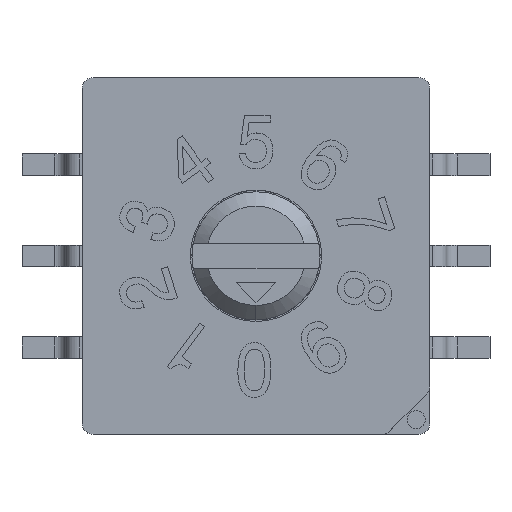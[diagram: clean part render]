
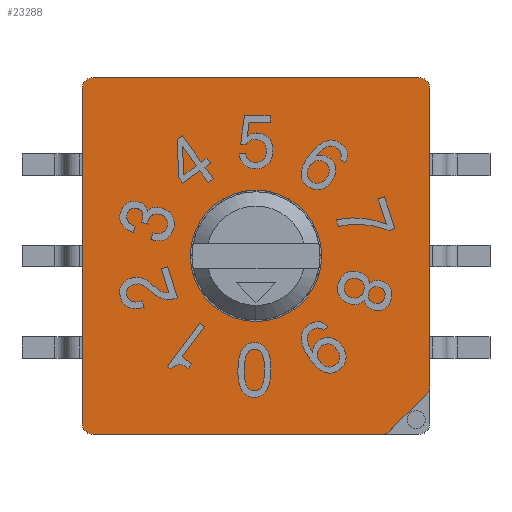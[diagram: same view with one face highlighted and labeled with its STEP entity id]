
A CAD part, top view. The second image highlights one B-rep face of the part: STEP entity #23288.
In plain terms, the highlighted planar face has unit normal (0, 0, 1) as drawn and (0, 0, -1) by its records, which use the part's own axes.
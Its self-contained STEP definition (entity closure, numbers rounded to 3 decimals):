
#22945 = VERTEX_POINT ( 'NONE', #36219 ) ;
#23031 = EDGE_CURVE ( 'NONE', #23033, #22945, #36354, .T. ) ;
#23033 = VERTEX_POINT ( 'NONE', #36349 ) ;
#23152 = EDGE_LOOP ( 'NONE', ( #23154, #23161, #23265, #23268, #23271, #23274, #23277, #23243, #23248, #23252 ) ) ;
#23154 = ORIENTED_EDGE ( 'NONE', *, *, #23155, .F. ) ;
#23155 = EDGE_CURVE ( 'NONE', #23157, #23159, #36475, .T. ) ;
#23157 = VERTEX_POINT ( 'NONE', #36533 ) ;
#23159 = VERTEX_POINT ( 'NONE', #36532 ) ;
#23161 = ORIENTED_EDGE ( 'NONE', *, *, #23263, .T. ) ;
#23239 = EDGE_CURVE ( 'NONE', #23241, #23276, #36580, .T. ) ;
#23241 = VERTEX_POINT ( 'NONE', #36576 ) ;
#23243 = ORIENTED_EDGE ( 'NONE', *, *, #23246, .T. ) ;
#23246 = EDGE_CURVE ( 'NONE', #23241, #23247, #36575, .T. ) ;
#23247 = VERTEX_POINT ( 'NONE', #36570 ) ;
#23248 = ORIENTED_EDGE ( 'NONE', *, *, #23249, .F. ) ;
#23249 = EDGE_CURVE ( 'NONE', #23251, #23247, #36569, .T. ) ;
#23251 = VERTEX_POINT ( 'NONE', #36627 ) ;
#23252 = ORIENTED_EDGE ( 'NONE', *, *, #23255, .T. ) ;
#23255 = EDGE_CURVE ( 'NONE', #23251, #23159, #36626, .T. ) ;
#23258 = EDGE_LOOP ( 'NONE', ( #23259, #23260 ) ) ;
#23259 = ORIENTED_EDGE ( 'NONE', *, *, #23031, .T. ) ;
#23260 = ORIENTED_EDGE ( 'NONE', *, *, #23261, .T. ) ;
#23261 = EDGE_CURVE ( 'NONE', #22945, #23033, #36621, .T. ) ;
#23263 = EDGE_CURVE ( 'NONE', #23157, #23264, #36616, .T. ) ;
#23264 = VERTEX_POINT ( 'NONE', #36611 ) ;
#23265 = ORIENTED_EDGE ( 'NONE', *, *, #23266, .F. ) ;
#23266 = EDGE_CURVE ( 'NONE', #23267, #23264, #36610, .T. ) ;
#23267 = VERTEX_POINT ( 'NONE', #36606 ) ;
#23268 = ORIENTED_EDGE ( 'NONE', *, *, #23269, .T. ) ;
#23269 = EDGE_CURVE ( 'NONE', #23267, #23270, #36605, .T. ) ;
#23270 = VERTEX_POINT ( 'NONE', #36600 ) ;
#23271 = ORIENTED_EDGE ( 'NONE', *, *, #23272, .F. ) ;
#23272 = EDGE_CURVE ( 'NONE', #23273, #23270, #36599, .T. ) ;
#23273 = VERTEX_POINT ( 'NONE', #36659 ) ;
#23274 = ORIENTED_EDGE ( 'NONE', *, *, #23275, .T. ) ;
#23275 = EDGE_CURVE ( 'NONE', #23273, #23276, #36658, .T. ) ;
#23276 = VERTEX_POINT ( 'NONE', #36653 ) ;
#23277 = ORIENTED_EDGE ( 'NONE', *, *, #23239, .F. ) ;
#23288 = ADVANCED_FACE ( 'NONE', ( #36637, #36636 ), #36635, .F. ) ;
#36219 = CARTESIAN_POINT ( 'NONE',  ( 1.825, 0., 0. ) ) ;
#36349 = CARTESIAN_POINT ( 'NONE',  ( -1.825, 0., 0. ) ) ;
#36350 = DIRECTION ( 'NONE',  ( 1., 0., 0. ) ) ;
#36351 = DIRECTION ( 'NONE',  ( 0., 0., 1. ) ) ;
#36352 = CARTESIAN_POINT ( 'NONE',  ( 0., 0., 0. ) ) ;
#36353 = AXIS2_PLACEMENT_3D ( 'NONE', #36352, #36351, #36350 ) ;
#36354 = CIRCLE ( 'NONE', #36353, 1.825 ) ;
#36472 = DIRECTION ( 'NONE',  ( 1., 0., 0. ) ) ;
#36473 = VECTOR ( 'NONE', #36472, 1000. ) ;
#36474 = CARTESIAN_POINT ( 'NONE',  ( -4.825, -4.955, 0. ) ) ;
#36475 = LINE ( 'NONE', #36474, #36473 ) ;
#36532 = CARTESIAN_POINT ( 'NONE',  ( 4.525, -4.955, 0. ) ) ;
#36533 = CARTESIAN_POINT ( 'NONE',  ( -3.501, -4.955, 0. ) ) ;
#36566 = DIRECTION ( 'NONE',  ( 0., 1., 0. ) ) ;
#36567 = VECTOR ( 'NONE', #36566, 1000. ) ;
#36568 = CARTESIAN_POINT ( 'NONE',  ( 4.825, 4.955, 0. ) ) ;
#36569 = LINE ( 'NONE', #36568, #36567 ) ;
#36570 = CARTESIAN_POINT ( 'NONE',  ( 4.825, 4.655, 0. ) ) ;
#36571 = DIRECTION ( 'NONE',  ( 1., 0., 0. ) ) ;
#36572 = DIRECTION ( 'NONE',  ( 0., 0., -1. ) ) ;
#36573 = CARTESIAN_POINT ( 'NONE',  ( 4.525, 4.655, 0. ) ) ;
#36574 = AXIS2_PLACEMENT_3D ( 'NONE', #36573, #36572, #36571 ) ;
#36575 = CIRCLE ( 'NONE', #36574, 0.3 ) ;
#36576 = CARTESIAN_POINT ( 'NONE',  ( 4.525, 4.955, 0. ) ) ;
#36577 = DIRECTION ( 'NONE',  ( -1., 0., 0. ) ) ;
#36578 = VECTOR ( 'NONE', #36577, 1000. ) ;
#36579 = CARTESIAN_POINT ( 'NONE',  ( -4.825, 4.955, 0. ) ) ;
#36580 = LINE ( 'NONE', #36579, #36578 ) ;
#36597 = VECTOR ( 'NONE', #36660, 1000. ) ;
#36598 = CARTESIAN_POINT ( 'NONE',  ( -4.825, 4.955, 0. ) ) ;
#36599 = LINE ( 'NONE', #36598, #36597 ) ;
#36600 = CARTESIAN_POINT ( 'NONE',  ( -4.825, -3.631, 0. ) ) ;
#36601 = DIRECTION ( 'NONE',  ( 1., 0., 0. ) ) ;
#36602 = DIRECTION ( 'NONE',  ( 0., 0., -1. ) ) ;
#36603 = CARTESIAN_POINT ( 'NONE',  ( -4.525, -3.631, 0. ) ) ;
#36604 = AXIS2_PLACEMENT_3D ( 'NONE', #36603, #36602, #36601 ) ;
#36605 = CIRCLE ( 'NONE', #36604, 0.3 ) ;
#36606 = CARTESIAN_POINT ( 'NONE',  ( -4.737, -3.843, 0. ) ) ;
#36607 = DIRECTION ( 'NONE',  ( 0.707, -0.707, 0. ) ) ;
#36608 = VECTOR ( 'NONE', #36607, 1000. ) ;
#36609 = CARTESIAN_POINT ( 'NONE',  ( -4.825, -3.755, 0. ) ) ;
#36610 = LINE ( 'NONE', #36609, #36608 ) ;
#36611 = CARTESIAN_POINT ( 'NONE',  ( -3.713, -4.867, 0. ) ) ;
#36612 = DIRECTION ( 'NONE',  ( 1., 0., 0. ) ) ;
#36613 = DIRECTION ( 'NONE',  ( 0., 0., -1. ) ) ;
#36614 = CARTESIAN_POINT ( 'NONE',  ( -3.501, -4.655, 0. ) ) ;
#36615 = AXIS2_PLACEMENT_3D ( 'NONE', #36614, #36613, #36612 ) ;
#36616 = CIRCLE ( 'NONE', #36615, 0.3 ) ;
#36617 = DIRECTION ( 'NONE',  ( 1., 0., 0. ) ) ;
#36618 = DIRECTION ( 'NONE',  ( 0., 0., 1. ) ) ;
#36619 = CARTESIAN_POINT ( 'NONE',  ( 0., 0., 0. ) ) ;
#36620 = AXIS2_PLACEMENT_3D ( 'NONE', #36619, #36618, #36617 ) ;
#36621 = CIRCLE ( 'NONE', #36620, 1.825 ) ;
#36622 = DIRECTION ( 'NONE',  ( 1., 0., 0. ) ) ;
#36623 = DIRECTION ( 'NONE',  ( 0., 0., -1. ) ) ;
#36624 = CARTESIAN_POINT ( 'NONE',  ( 4.525, -4.655, 0. ) ) ;
#36625 = AXIS2_PLACEMENT_3D ( 'NONE', #36624, #36623, #36622 ) ;
#36626 = CIRCLE ( 'NONE', #36625, 0.3 ) ;
#36627 = CARTESIAN_POINT ( 'NONE',  ( 4.825, -4.655, 0. ) ) ;
#36629 = DIRECTION ( 'NONE',  ( 1., 0., 0. ) ) ;
#36630 = DIRECTION ( 'NONE',  ( 0., 0., 1. ) ) ;
#36631 = AXIS2_PLACEMENT_3D ( 'NONE', #36634, #36630, #36629 ) ;
#36634 = CARTESIAN_POINT ( 'NONE',  ( 4.825, -4.955, 0. ) ) ;
#36635 = PLANE ( 'NONE',  #36631 ) ;
#36636 = FACE_BOUND ( 'NONE', #23258, .T. ) ;
#36637 = FACE_OUTER_BOUND ( 'NONE', #23152, .T. ) ;
#36653 = CARTESIAN_POINT ( 'NONE',  ( -4.525, 4.955, 0. ) ) ;
#36654 = DIRECTION ( 'NONE',  ( 1., 0., 0. ) ) ;
#36655 = DIRECTION ( 'NONE',  ( 0., 0., -1. ) ) ;
#36656 = CARTESIAN_POINT ( 'NONE',  ( -4.525, 4.655, 0. ) ) ;
#36657 = AXIS2_PLACEMENT_3D ( 'NONE', #36656, #36655, #36654 ) ;
#36658 = CIRCLE ( 'NONE', #36657, 0.3 ) ;
#36659 = CARTESIAN_POINT ( 'NONE',  ( -4.825, 4.655, 0. ) ) ;
#36660 = DIRECTION ( 'NONE',  ( 0., -1., 0. ) ) ;
